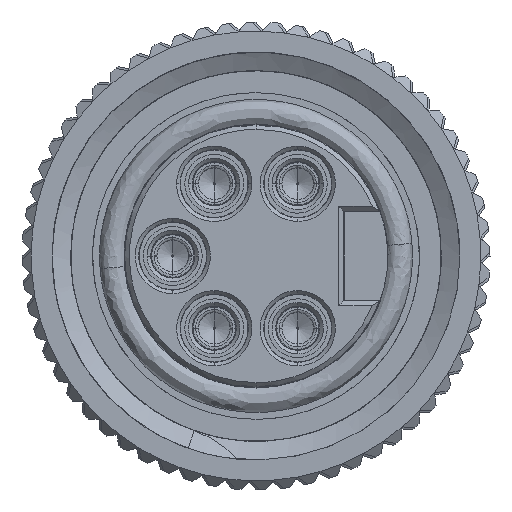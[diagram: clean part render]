
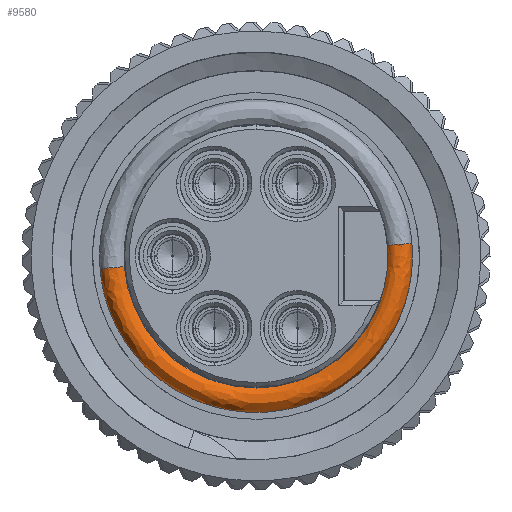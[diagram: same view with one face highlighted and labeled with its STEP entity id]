
A CAD part, left-side view. The second image highlights one B-rep face of the part: STEP entity #9580.
In plain terms, the highlighted free-form (B-spline) face has degree [3, 3] with [7, 4] control points.
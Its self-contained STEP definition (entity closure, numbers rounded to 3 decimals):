
#1612 = VERTEX_POINT ( 'NONE', #66363 ) ;
#1799 = CARTESIAN_POINT ( 'NONE',  ( -8.454, 8.498, -0.688 ) ) ;
#2028 = CARTESIAN_POINT ( 'NONE',  ( -7.589, -8.503, 0.688 ) ) ;
#4463 = CARTESIAN_POINT ( 'NONE',  ( -8.878, 7.17, -0.581 ) ) ;
#5051 = CARTESIAN_POINT ( 'NONE',  ( -8.454, -8.498, 0.688 ) ) ;
#5089 = DIRECTION ( 'NONE',  ( -1., 0., 0. ) ) ;
#7405 = CARTESIAN_POINT ( 'NONE',  ( -7.318, 6.44, -15.991 ) ) ;
#7654 = CARTESIAN_POINT ( 'NONE',  ( -9.318, -9.869, -16.3 ) ) ;
#8130 = CARTESIAN_POINT ( 'NONE',  ( -8.015, 6.013, -14.931 ) ) ;
#8914 = CIRCLE ( 'NONE', #24056, 7.198 ) ;
#9580 = ADVANCED_FACE ( 'NONE', ( #10836 ), #35217, .F. ) ;
#9611 = CARTESIAN_POINT ( 'NONE',  ( -9.318, 8.494, -0.688 ) ) ;
#9845 = CARTESIAN_POINT ( 'NONE',  ( -7.318, 7.685, -0.622 ) ) ;
#10015 = ORIENTED_EDGE ( 'NONE', *, *, #15047, .F. ) ;
#10433 = VERTEX_POINT ( 'NONE', #37985 ) ;
#10469 = CARTESIAN_POINT ( 'NONE',  ( -8.878, -7.17, 0.581 ) ) ;
#10836 = FACE_OUTER_BOUND ( 'NONE', #37397, .T. ) ;
#11173 = CARTESIAN_POINT ( 'NONE',  ( -9.581, -7.673, 0.621 ) ) ;
#12690 = CARTESIAN_POINT ( 'NONE',  ( -8.015, 0., 0. ) ) ;
#13071 = CARTESIAN_POINT ( 'NONE',  ( -8.878, 7.17, -0.581 ) ) ;
#13816 = CARTESIAN_POINT ( 'NONE',  ( -7.589, 8.503, -0.688 ) ) ;
#15047 = EDGE_CURVE ( 'NONE', #31464, #70996, #46463, .T. ) ;
#15774 = CARTESIAN_POINT ( 'NONE',  ( -7.589, 8.503, -0.688 ) ) ;
#16179 = CARTESIAN_POINT ( 'NONE',  ( -8.878, -7.17, 0.581 ) ) ;
#17362 = CARTESIAN_POINT ( 'NONE',  ( -8.878, 0., 0. ) ) ;
#17844 = ORIENTED_EDGE ( 'NONE', *, *, #42591, .F. ) ;
#18971 = CARTESIAN_POINT ( 'NONE',  ( -9.318, -8.494, 0.688 ) ) ;
#19395 =( BOUNDED_CURVE ( )  B_SPLINE_CURVE ( 3, ( #20179, #9845, #15774, #43211, #9611, #60357, #4463 ),
 .UNSPECIFIED., .F., .F. ) 
 B_SPLINE_CURVE_WITH_KNOTS ( ( 4, 3, 4 ),
 ( 0., 0.5, 1. ),
 .UNSPECIFIED. ) 
 CURVE ( )  GEOMETRIC_REPRESENTATION_ITEM ( )  RATIONAL_B_SPLINE_CURVE ( ( 1., 0.539, 0.539, 1., 0.539, 0.539, 1. ) ) 
 REPRESENTATION_ITEM ( '' )  );
#19460 = CARTESIAN_POINT ( 'NONE',  ( -8.454, -9.874, -16.308 ) ) ;
#20179 = CARTESIAN_POINT ( 'NONE',  ( -8.015, 7.175, -0.581 ) ) ;
#21300 = ORIENTED_EDGE ( 'NONE', *, *, #23999, .F. ) ;
#21441 = VERTEX_POINT ( 'NONE', #70193 ) ;
#21854 = CIRCLE ( 'NONE', #31279, 7.194 ) ;
#23174 = DIRECTION ( 'NONE',  ( 1., 0., 0. ) ) ;
#23409 = CARTESIAN_POINT ( 'NONE',  ( -8.015, 0., 0. ) ) ;
#23999 = EDGE_CURVE ( 'NONE', #70996, #67607, #8914, .T. ) ;
#24056 = AXIS2_PLACEMENT_3D ( 'NONE', #23409, #23174, #62590 ) ;
#25086 = CARTESIAN_POINT ( 'NONE',  ( -9.581, 7.673, -0.621 ) ) ;
#27141 = CARTESIAN_POINT ( 'NONE',  ( -8.015, 0., -7.198 ) ) ;
#27635 = EDGE_CURVE ( 'NONE', #1612, #10433, #21854, .T. ) ;
#27868 = CARTESIAN_POINT ( 'NONE',  ( -7.589, -8.503, 0.688 ) ) ;
#27943 = AXIS2_PLACEMENT_3D ( 'NONE', #12690, #46784, #68563 ) ;
#28126 = DIRECTION ( 'NONE',  ( 0., 0., 1. ) ) ;
#29702 = EDGE_CURVE ( 'NONE', #21441, #1612, #35007, .T. ) ;
#29715 = CARTESIAN_POINT ( 'NONE',  ( -8.015, -7.175, 0.581 ) ) ;
#30104 = ORIENTED_EDGE ( 'NONE', *, *, #29702, .F. ) ;
#30743 = CARTESIAN_POINT ( 'NONE',  ( -9.581, 6.43, -15.967 ) ) ;
#31279 = AXIS2_PLACEMENT_3D ( 'NONE', #17362, #67576, #28126 ) ;
#31464 = VERTEX_POINT ( 'NONE', #29715 ) ;
#34047 = DIRECTION ( 'NONE',  ( 0., 0., 1. ) ) ;
#35007 = CIRCLE ( 'NONE', #44456, 7.194 ) ;
#35217 =( BOUNDED_SURFACE ( )  B_SPLINE_SURFACE ( 3, 3, ( 
 ( #46918, #8130, #63546, #35426 ),
 ( #63799, #7405, #52540, #47419 ),
 ( #13816, #35665, #53027, #2028 ),
 ( #1799, #41030, #19460, #58650 ),
 ( #46683, #41277, #7654, #18971 ),
 ( #25086, #30743, #69898, #36386 ),
 ( #13071, #49294, #43634, #16179 ) ),
 .UNSPECIFIED., .F., .F., .F. ) 
 B_SPLINE_SURFACE_WITH_KNOTS ( ( 4, 3, 4 ),
 ( 4, 4 ),
 ( 0., 0.5, 1. ),
 ( 0., 0.5 ),
 .UNSPECIFIED. ) 
 GEOMETRIC_REPRESENTATION_ITEM ( )  RATIONAL_B_SPLINE_SURFACE ( (
 ( 1., 0.333, 0.333, 1.),
 ( 0.539, 0.18, 0.18, 0.539),
 ( 0.539, 0.18, 0.18, 0.539),
 ( 1., 0.333, 0.333, 1.),
 ( 0.539, 0.18, 0.18, 0.539),
 ( 0.539, 0.18, 0.18, 0.539),
 ( 1., 0.333, 0.333, 1.) ) ) 
 REPRESENTATION_ITEM ( '' )  SURFACE ( )  );
#35426 = CARTESIAN_POINT ( 'NONE',  ( -8.015, -7.175, 0.581 ) ) ;
#35665 = CARTESIAN_POINT ( 'NONE',  ( -7.589, 7.126, -17.694 ) ) ;
#36386 = CARTESIAN_POINT ( 'NONE',  ( -9.581, -7.673, 0.621 ) ) ;
#37397 = EDGE_LOOP ( 'NONE', ( #30104, #68230, #21300, #10015, #17844, #47507 ) ) ;
#37985 = CARTESIAN_POINT ( 'NONE',  ( -8.878, -7.17, 0.581 ) ) ;
#41030 = CARTESIAN_POINT ( 'NONE',  ( -8.454, 7.122, -17.684 ) ) ;
#41155 = EDGE_CURVE ( 'NONE', #67607, #21441, #19395, .T. ) ;
#41277 = CARTESIAN_POINT ( 'NONE',  ( -9.318, 7.118, -17.675 ) ) ;
#42591 = EDGE_CURVE ( 'NONE', #10433, #31464, #57279, .T. ) ;
#43211 = CARTESIAN_POINT ( 'NONE',  ( -8.454, 8.498, -0.688 ) ) ;
#43634 = CARTESIAN_POINT ( 'NONE',  ( -8.878, -8.331, -13.76 ) ) ;
#44456 = AXIS2_PLACEMENT_3D ( 'NONE', #61708, #5089, #34047 ) ;
#46463 = CIRCLE ( 'NONE', #27943, 7.198 ) ;
#46683 = CARTESIAN_POINT ( 'NONE',  ( -9.318, 8.494, -0.688 ) ) ;
#46784 = DIRECTION ( 'NONE',  ( 1., 0., 0. ) ) ;
#46918 = CARTESIAN_POINT ( 'NONE',  ( -8.015, 7.175, -0.581 ) ) ;
#47419 = CARTESIAN_POINT ( 'NONE',  ( -7.318, -7.685, 0.622 ) ) ;
#47507 = ORIENTED_EDGE ( 'NONE', *, *, #27635, .F. ) ;
#49294 = CARTESIAN_POINT ( 'NONE',  ( -8.878, 6.009, -14.921 ) ) ;
#49725 = CARTESIAN_POINT ( 'NONE',  ( -7.318, -7.685, 0.622 ) ) ;
#52540 = CARTESIAN_POINT ( 'NONE',  ( -7.318, -8.929, -14.747 ) ) ;
#53027 = CARTESIAN_POINT ( 'NONE',  ( -7.589, -9.879, -16.317 ) ) ;
#56037 = CARTESIAN_POINT ( 'NONE',  ( -9.318, -8.494, 0.688 ) ) ;
#57279 =( BOUNDED_CURVE ( )  B_SPLINE_CURVE ( 3, ( #10469, #11173, #56037, #5051, #27868, #49725, #60750 ),
 .UNSPECIFIED., .F., .T. ) 
 B_SPLINE_CURVE_WITH_KNOTS ( ( 4, 3, 4 ),
 ( 0., 0.5, 1. ),
 .UNSPECIFIED. ) 
 CURVE ( )  GEOMETRIC_REPRESENTATION_ITEM ( )  RATIONAL_B_SPLINE_CURVE ( ( 1., 0.539, 0.539, 1., 0.539, 0.539, 1. ) ) 
 REPRESENTATION_ITEM ( '' )  );
#58650 = CARTESIAN_POINT ( 'NONE',  ( -8.454, -8.498, 0.688 ) ) ;
#60357 = CARTESIAN_POINT ( 'NONE',  ( -9.581, 7.673, -0.621 ) ) ;
#60750 = CARTESIAN_POINT ( 'NONE',  ( -8.015, -7.175, 0.581 ) ) ;
#61708 = CARTESIAN_POINT ( 'NONE',  ( -8.878, 0., 0. ) ) ;
#62590 = DIRECTION ( 'NONE',  ( 0., 0., -1. ) ) ;
#63546 = CARTESIAN_POINT ( 'NONE',  ( -8.015, -8.337, -13.769 ) ) ;
#63799 = CARTESIAN_POINT ( 'NONE',  ( -7.318, 7.685, -0.622 ) ) ;
#64171 = CARTESIAN_POINT ( 'NONE',  ( -8.015, 7.175, -0.581 ) ) ;
#66363 = CARTESIAN_POINT ( 'NONE',  ( -8.878, 0., -7.194 ) ) ;
#67576 = DIRECTION ( 'NONE',  ( -1., 0., 0. ) ) ;
#67607 = VERTEX_POINT ( 'NONE', #64171 ) ;
#68230 = ORIENTED_EDGE ( 'NONE', *, *, #41155, .F. ) ;
#68563 = DIRECTION ( 'NONE',  ( 0., 0., -1. ) ) ;
#69898 = CARTESIAN_POINT ( 'NONE',  ( -9.581, -8.915, -14.724 ) ) ;
#70193 = CARTESIAN_POINT ( 'NONE',  ( -8.878, 7.17, -0.581 ) ) ;
#70996 = VERTEX_POINT ( 'NONE', #27141 ) ;
